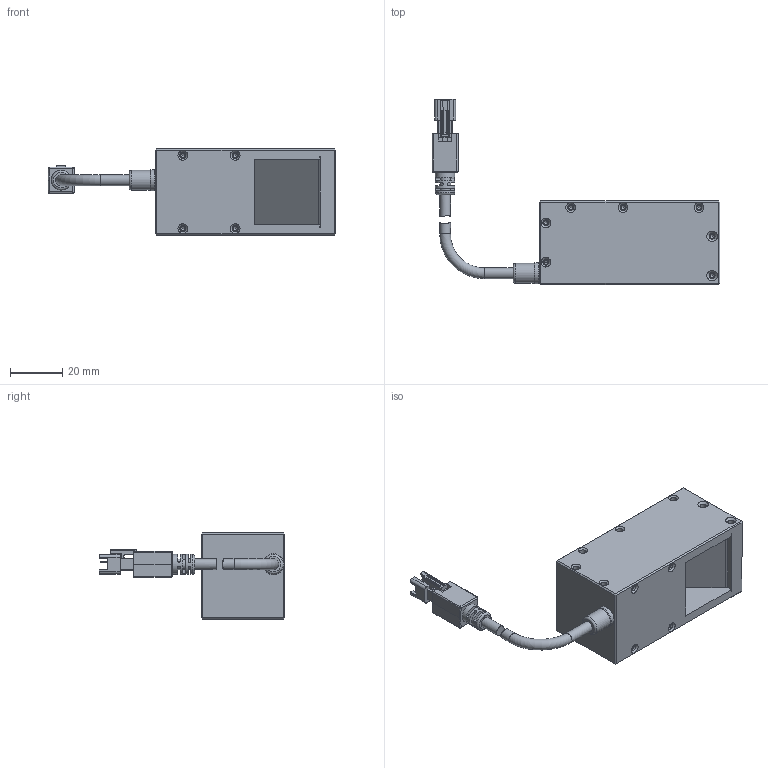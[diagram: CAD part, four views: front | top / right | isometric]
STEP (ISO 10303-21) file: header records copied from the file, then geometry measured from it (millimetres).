
FILE_DESCRIPTION (( 'STEP AP203' ), '1' );
FILE_NAME ('OPT-CO30-X-V5.0尨砩芞.STEP', '2025-01-22T02:19:58', ( '' ), ( '' ), 'SwSTEP 2.0', 'SolidWorks 2016', '' );
FILE_SCHEMA (( 'CONFIG_CONTROL_DESIGN' ));
Length unit declared in the file: millimetre
Products named in the file (1): OPT-CO30-X-V5.0尨砩芞
Bounding box: 109.98 x 70.9 x 33 mm (x, y, z)
Volume: 65408.6 mm3; surface area: 19305.2 mm2
Topology: 6 solids, 18 shells, 564 faces, 1398 edges, 886 vertices
Faces by surface type: plane 331, cylinder 152, cone 53, bspline 20, torus 8
Full cylindrical faces by diameter (mm): 1.6 x22, 2.4 x18, 3.3 x4, 3.5 x1, 4.1 x3, 5.8 x1, 7.5 x2, 8 x1
Entity records: 16238 total; most frequent: CARTESIAN_POINT 3567, DIRECTION 2576, ORIENTED_EDGE 2470, EDGE_CURVE 1235, AXIS2_PLACEMENT_3D 862, LINE 852, VECTOR 852, VERTEX_POINT 837
